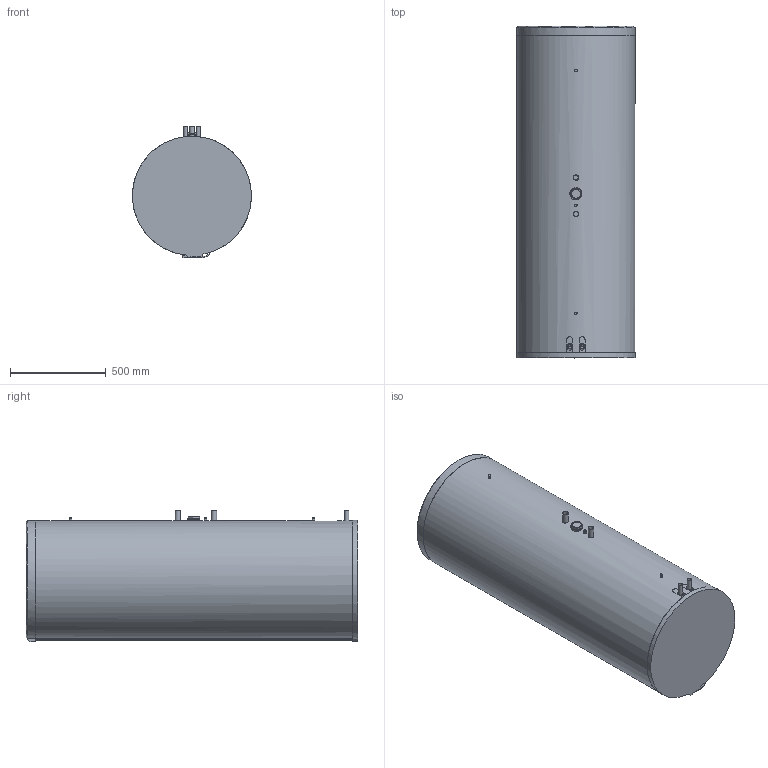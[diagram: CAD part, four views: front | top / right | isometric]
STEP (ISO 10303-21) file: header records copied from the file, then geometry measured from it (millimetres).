
FILE_DESCRIPTION(/* description */ (''),/* implementation_level */ '2;1');
FILE_NAME(/* name */ 'G:\04. Producten\07. RVS (W) staand\01. Tekeningen\30251_Voorraadvat RVS-300-WP-Staand_Simplified_Tekening3D.stp',/* time_stamp */ '2020-04-08T10:25:22+02:00',/* author */ ('s.vijverberg'),/* organization */ (''),/* preprocessor_version */ 'ST-DEVELOPER v18',/* originating_system */ 'Autodesk Inventor 2020',/* authorisation */ '');
FILE_SCHEMA (('AUTOMOTIVE_DESIGN { 1 0 10303 214 3 1 1 }'));
Length unit declared in the file: millimetre
Products named in the file (1): 30251_Voorraadvat RVS-300-WP-Staand_Simplified_Tekening3D
Bounding box: 622.15 x 1736.1 x 689.5 mm (x, y, z)
Volume: 523173657.9 mm3; surface area: 4177116.7 mm2
Topology: 1 solids, 1 shells, 178 faces, 477 edges, 319 vertices
Faces by surface type: plane 89, cylinder 68, cone 13, torus 8
Full cylindrical faces by diameter (mm): 13 x6, 20.4 x4, 22 x4, 26 x2, 28 x2, 46 x1, 56 x1, 63.48 x1, 620 x1
Entity records: 6479 total; most frequent: CARTESIAN_POINT 1615, DIRECTION 985, ORIENTED_EDGE 954, EDGE_CURVE 477, AXIS2_PLACEMENT_3D 369, VERTEX_POINT 319, LINE 247, VECTOR 247
